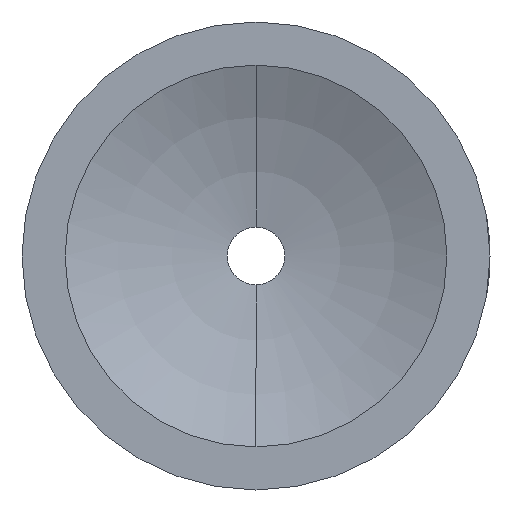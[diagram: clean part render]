
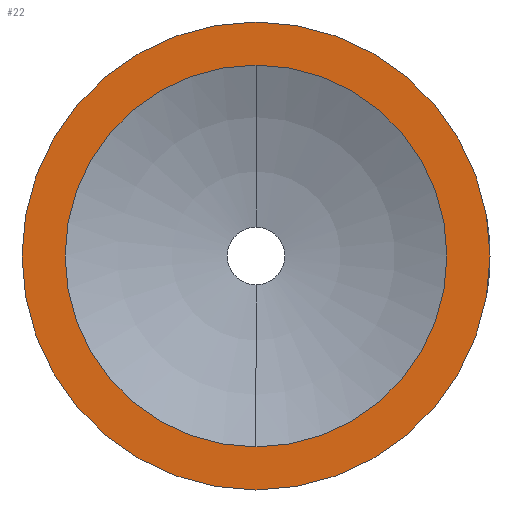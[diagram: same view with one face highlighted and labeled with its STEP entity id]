
A CAD part, left-side view. The second image highlights one B-rep face of the part: STEP entity #22.
In plain terms, the highlighted planar face has unit normal (-1, 0, 0).
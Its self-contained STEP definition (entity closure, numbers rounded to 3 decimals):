
#1 = DIRECTION ( 'NONE',  ( 0., 0., 1. ) ) ;
#3 = FACE_OUTER_BOUND ( 'NONE', #184, .T. ) ;
#10 = CARTESIAN_POINT ( 'NONE',  ( 0., 0., -19. ) ) ;
#22 = ADVANCED_FACE ( 'NONE', ( #382, #3 ), #437, .F. ) ;
#36 = VERTEX_POINT ( 'NONE', #88 ) ;
#47 = CIRCLE ( 'NONE', #212, 19. ) ;
#48 = DIRECTION ( 'NONE',  ( 0., 0., 1. ) ) ;
#51 = CIRCLE ( 'NONE', #298, 15.5 ) ;
#52 = ORIENTED_EDGE ( 'NONE', *, *, #409, .F. ) ;
#56 = DIRECTION ( 'NONE',  ( -1., 0., 0. ) ) ;
#58 = CARTESIAN_POINT ( 'NONE',  ( 0., 0., 0. ) ) ;
#88 = CARTESIAN_POINT ( 'NONE',  ( 0., 0., 19. ) ) ;
#127 = DIRECTION ( 'NONE',  ( 0., 0., 1. ) ) ;
#130 = DIRECTION ( 'NONE',  ( -1., 0., 0. ) ) ;
#133 = CARTESIAN_POINT ( 'NONE',  ( 0., 0., 0. ) ) ;
#157 = CARTESIAN_POINT ( 'NONE',  ( 0., 0., -15.5 ) ) ;
#165 = EDGE_LOOP ( 'NONE', ( #52, #239 ) ) ;
#184 = EDGE_LOOP ( 'NONE', ( #244, #277 ) ) ;
#185 = VERTEX_POINT ( 'NONE', #540 ) ;
#187 = CIRCLE ( 'NONE', #238, 19. ) ;
#189 = DIRECTION ( 'NONE',  ( 0., 0., 1. ) ) ;
#196 = CIRCLE ( 'NONE', #201, 15.5 ) ;
#201 = AXIS2_PLACEMENT_3D ( 'NONE', #58, #56, #48 ) ;
#212 = AXIS2_PLACEMENT_3D ( 'NONE', #133, #130, #127 ) ;
#228 = DIRECTION ( 'NONE',  ( -1., 0., 0. ) ) ;
#230 = CARTESIAN_POINT ( 'NONE',  ( 0., 0., 0. ) ) ;
#238 = AXIS2_PLACEMENT_3D ( 'NONE', #230, #228, #189 ) ;
#239 = ORIENTED_EDGE ( 'NONE', *, *, #472, .F. ) ;
#244 = ORIENTED_EDGE ( 'NONE', *, *, #460, .T. ) ;
#247 = CARTESIAN_POINT ( 'NONE',  ( 0., 0., 0. ) ) ;
#268 = DIRECTION ( 'NONE',  ( -1., 0., 0. ) ) ;
#277 = ORIENTED_EDGE ( 'NONE', *, *, #452, .T. ) ;
#298 = AXIS2_PLACEMENT_3D ( 'NONE', #247, #268, #1 ) ;
#324 = VERTEX_POINT ( 'NONE', #10 ) ;
#337 = DIRECTION ( 'NONE',  ( 0., 0., -1. ) ) ;
#354 = VERTEX_POINT ( 'NONE', #157 ) ;
#381 = AXIS2_PLACEMENT_3D ( 'NONE', #462, #464, #337 ) ;
#382 = FACE_BOUND ( 'NONE', #165, .T. ) ;
#409 = EDGE_CURVE ( 'NONE', #185, #354, #51, .T. ) ;
#437 = PLANE ( 'NONE',  #381 ) ;
#452 = EDGE_CURVE ( 'NONE', #324, #36, #187, .T. ) ;
#460 = EDGE_CURVE ( 'NONE', #36, #324, #47, .T. ) ;
#462 = CARTESIAN_POINT ( 'NONE',  ( 0., 2.25, 0. ) ) ;
#464 = DIRECTION ( 'NONE',  ( 1., 0., 0. ) ) ;
#472 = EDGE_CURVE ( 'NONE', #354, #185, #196, .T. ) ;
#540 = CARTESIAN_POINT ( 'NONE',  ( 0., 0., 15.5 ) ) ;
